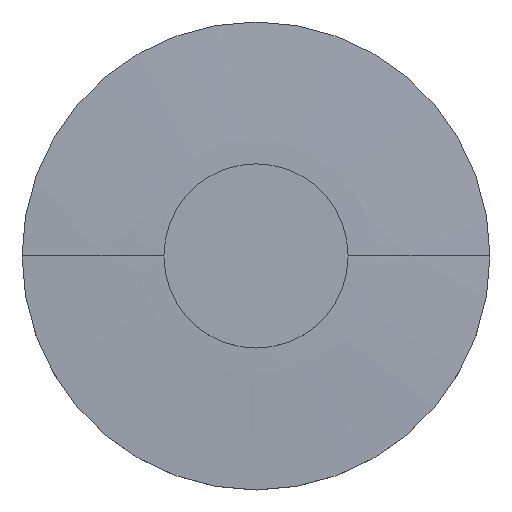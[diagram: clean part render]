
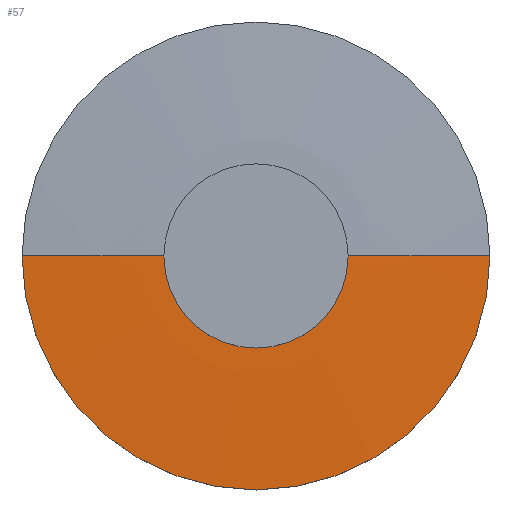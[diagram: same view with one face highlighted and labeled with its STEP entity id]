
A CAD part, top view. The second image highlights one B-rep face of the part: STEP entity #57.
In plain terms, the highlighted spherical face has radius 471.032 mm.
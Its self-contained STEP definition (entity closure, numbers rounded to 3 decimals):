
#57=ADVANCED_FACE('',(#71),#72,.T.);
#71=FACE_OUTER_BOUND('',#91,.T.);
#72=SPHERICAL_SURFACE('',#92,471.032);
#91=EDGE_LOOP('',(#124,#125,#126));
#92=AXIS2_PLACEMENT_3D('',#127,#128,#129);
#124=ORIENTED_EDGE('',*,*,#173,.T.);
#125=ORIENTED_EDGE('',*,*,#174,.T.);
#126=ORIENTED_EDGE('',*,*,#175,.T.);
#127=CARTESIAN_POINT('',(0.0,0.0,-463.032));
#128=DIRECTION('',(0.0,0.0,1.0));
#129=DIRECTION('',(1.0,0.0,0.0));
#173=EDGE_CURVE('',#189,#194,#195,.T.);
#174=EDGE_CURVE('',#194,#191,#196,.T.);
#175=EDGE_CURVE('',#191,#189,#197,.T.);
#189=VERTEX_POINT('',#215);
#191=VERTEX_POINT('',#218);
#194=VERTEX_POINT('',#222);
#195=CIRCLE('',#223,471.032);
#196=CIRCLE('',#224,471.032);
#197=CIRCLE('',#225,25.4);
#215=CARTESIAN_POINT('',(25.4,0.,7.315));
#218=CARTESIAN_POINT('',(-25.4,0.,7.315));
#222=CARTESIAN_POINT('',(0.0,0.0,8.0));
#223=AXIS2_PLACEMENT_3D('',#253,#254,#255);
#224=AXIS2_PLACEMENT_3D('',#256,#257,#258);
#225=AXIS2_PLACEMENT_3D('',#259,#260,#261);
#253=CARTESIAN_POINT('',(0.0,0.0,-463.032));
#254=DIRECTION('',(0.,-1.0,0.0));
#255=DIRECTION('',(0.0,0.0,1.0));
#256=CARTESIAN_POINT('',(0.0,0.0,-463.032));
#257=DIRECTION('',(0.,-1.0,0.0));
#258=DIRECTION('',(0.0,0.0,1.0));
#259=CARTESIAN_POINT('',(0.0,0.0,7.315));
#260=DIRECTION('',(0.0,0.0,1.0));
#261=DIRECTION('',(1.0,0.0,0.0));
